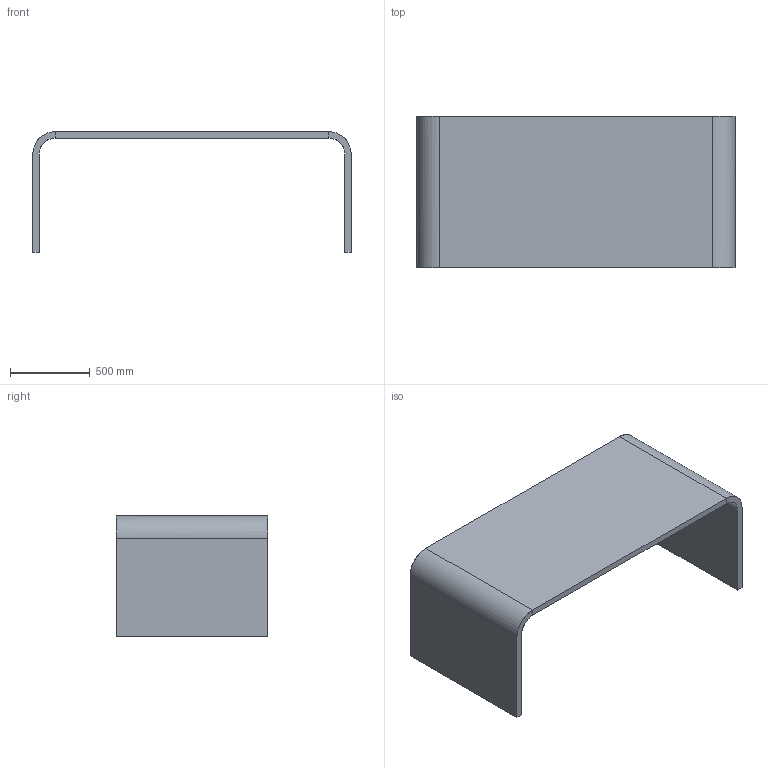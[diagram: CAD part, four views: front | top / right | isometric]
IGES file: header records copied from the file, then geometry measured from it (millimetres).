
Start section: Comment
Global section: file name: M10-2-20.igs; native system:  By UGS Corp.; preprocessor: XPlus GENERIC/IGES 3.0; author: Author; organization: Title; date: 20140729.103801; units: inch
Bounding box: 1996 x 948 x 755 mm (x, y, z)
Surface area: 6793533.1 mm2 (no closed solid volume)
Topology: 0 solids, 0 shells, 22 faces, 96 edges, 96 vertices
Faces by surface type: bspline 22
